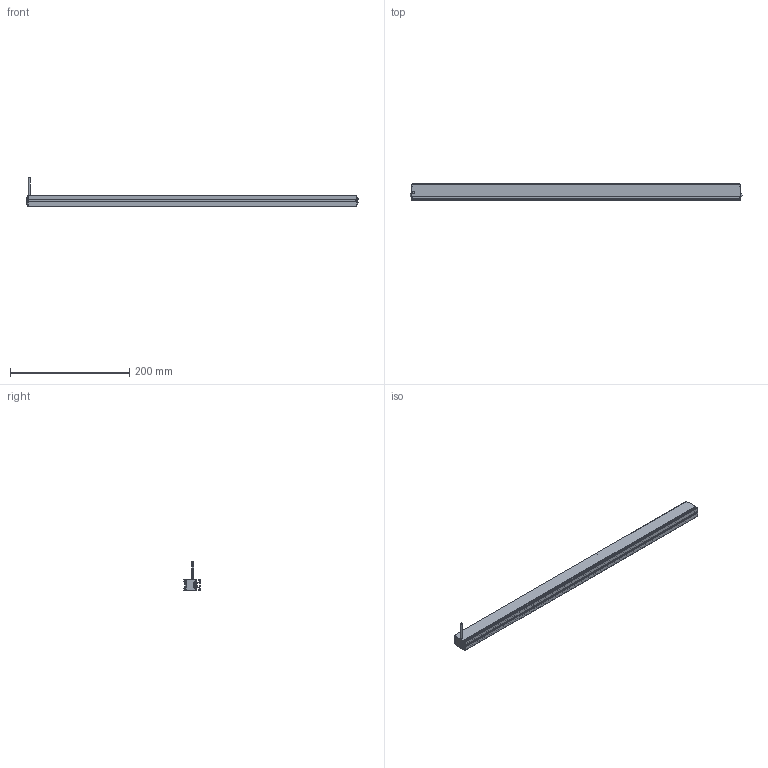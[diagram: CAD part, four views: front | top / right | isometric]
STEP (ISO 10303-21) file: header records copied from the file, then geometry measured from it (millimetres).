
FILE_DESCRIPTION((''),'2;1');
FILE_NAME('MV-LLDS-552-18_ASM','2020-12-30T',('Administrator'),(''),'PRO/ENGINEER BY PARAMETRIC TECHNOLOGY CORPORATION, 2010100','PRO/ENGINEER BY PARAMETRIC TECHNOLOGY CORPORATION, 2010100','');
FILE_SCHEMA(('CONFIG_CONTROL_DESIGN'));
Length unit declared in the file: millimetre
Products named in the file (3): BL_2_-_2_; M3-5_3; MV-LLDS-552-18_ASM
Assembly tree (5 placements, depth 2):
  MV-LLDS-552-18_ASM
    BL_2_-_2_
    M3-5_3  x4
Bounding box: 556.68 x 27 x 48 mm (x, y, z)
Volume: 219548.4 mm3; surface area: 97809.7 mm2
Topology: 5 solids, 13 shells, 327 faces, 872 edges, 560 vertices
Faces by surface type: plane 213, cylinder 66, cone 16, bspline 16, torus 8, sphere 8
Entity records: 7485 total; most frequent: CARTESIAN_POINT 1567, ORIENTED_EDGE 1214, DIRECTION 1184, EDGE_CURVE 617, VECTOR 472, LINE 472, VERTEX_POINT 401, AXIS2_PLACEMENT_3D 356
